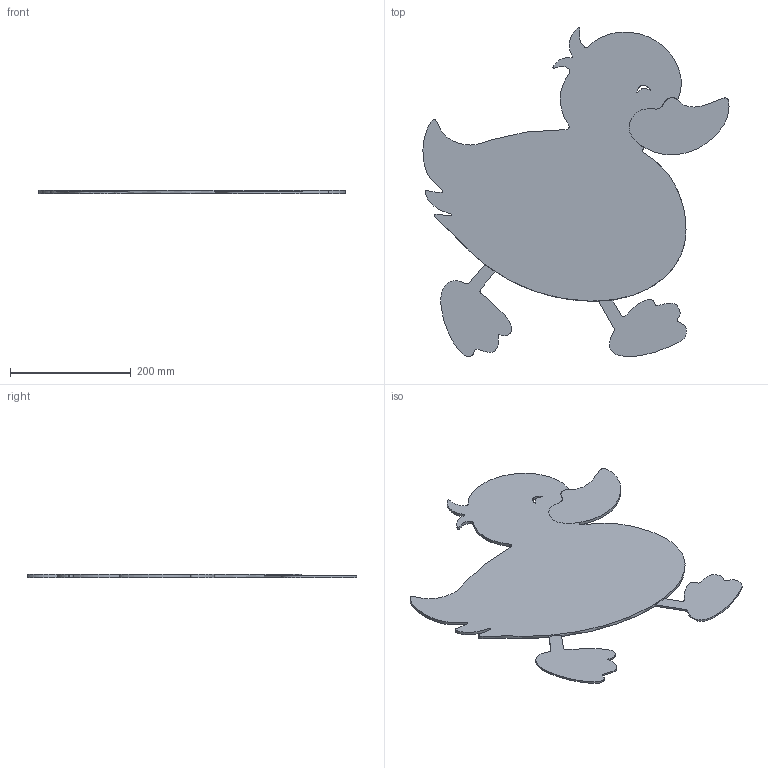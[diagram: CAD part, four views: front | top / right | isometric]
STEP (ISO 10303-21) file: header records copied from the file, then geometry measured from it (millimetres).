
FILE_DESCRIPTION (( 'STEP AP203' ), '1' );
FILE_NAME ('MA.DC30035-A.STEP', '2022-04-21T13:53:24', ( '' ), ( '' ), 'SwSTEP 2.0', 'SolidWorks 2021', '' );
FILE_SCHEMA (( 'CONFIG_CONTROL_DESIGN' ));
Length unit declared in the file: millimetre
Products named in the file (1): MA.DC30035-A
Bounding box: 506.09 x 543.98 x 5 mm (x, y, z)
Volume: 711835.9 mm3; surface area: 318453.1 mm2
Topology: 4 solids, 4 shells, 45 faces, 111 edges, 74 vertices
Faces by surface type: plane 20, bspline 15, cylinder 10
Entity records: 1878 total; most frequent: CARTESIAN_POINT 830, ORIENTED_EDGE 222, DIRECTION 155, EDGE_CURVE 111, VERTEX_POINT 74, VECTOR 53, LINE 53, AXIS2_PLACEMENT_3D 51
